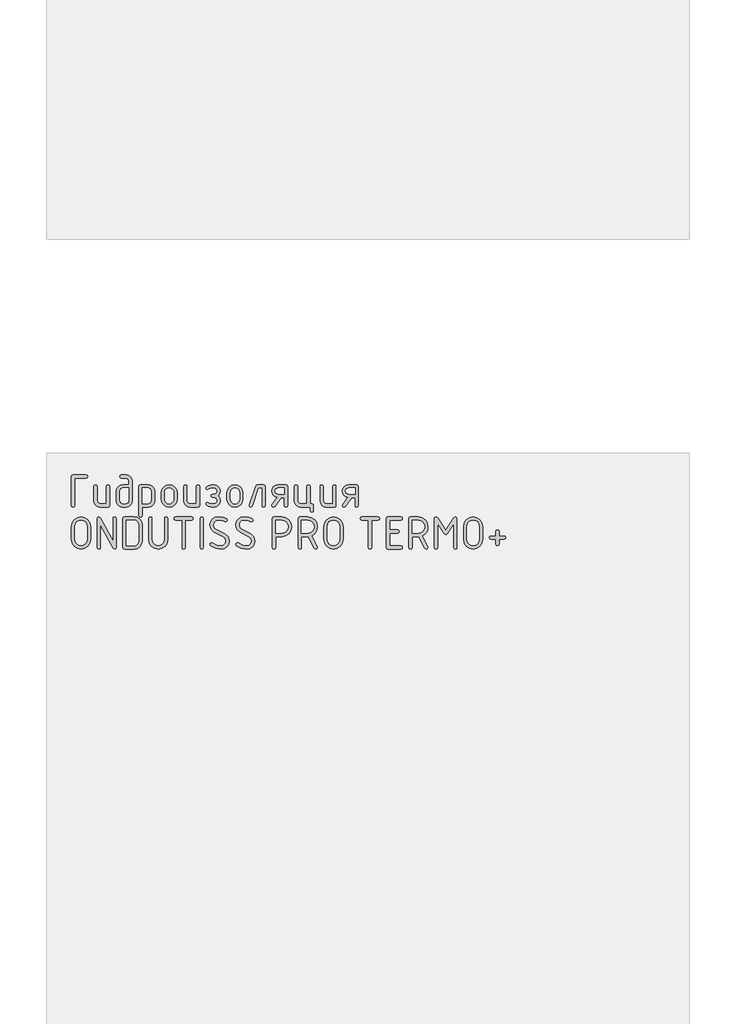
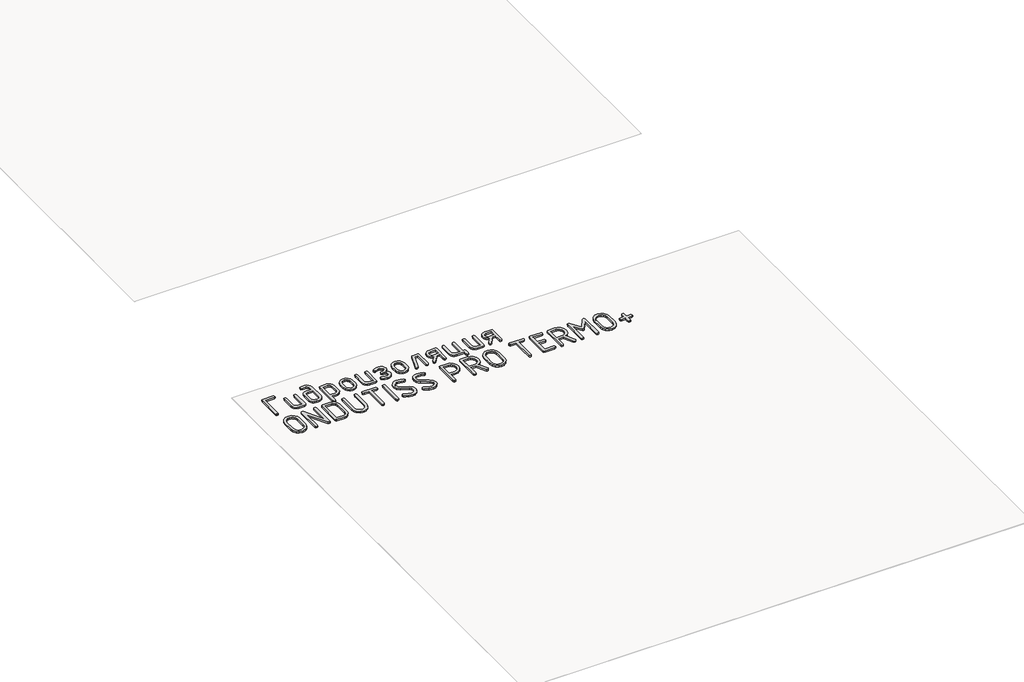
# One storey, part 16 of 42: 1 proxy.
"""IFC4 building model written with IfcOpenShell, lengths in millimetres."""

from ifc_helpers import new_model, si_unit, origin, origin_with_axes, place, context, project, spatial, polyline, outline, extrude, element, save

model = new_model("IFC4")

# Units and contexts
model_context = context("Model", 3, world=origin())
ifc_project = project(units=[si_unit("LENGTHUNIT", "METRE", prefix="MILLI")], contexts=[model_context])

# Site, building, storey
site = spatial("IfcSite", under=ifc_project)
building = spatial("IfcBuilding", under=site)
storey = spatial("IfcBuildingStorey", under=building, Name="Этаж 01", Elevation=0.0)

# Proxy
placement = place(None, origin())
element("IfcBuildingElementProxy", 1, Name="150 мм GOST Common", ObjectType="150 мм GOST Common", at=placement, inside=storey, context=model_context, shape_type="SweptSolid", body=[
    extrude(outline(polyline([(-4405.184039, -38691.2553022), (-4405.184039, -38819.2602353), (-4407.1017159, -38824.8934112), (-4412.8547466, -38826.7711365), (-4418.6077773, -38824.8834233), (-4420.5254542, -38819.2202837), (-4420.5254542, -38683.4647398), (-4418.6077773, -38677.8016002), (-4412.8547466, -38675.913887), (-4352.6876338, -38675.913887), (-4347.0544579, -38677.8315639), (-4345.1767326, -38683.5845946), (-4347.0544579, -38689.3376253), (-4352.6876338, -38691.2553022), (-4405.184039, -38691.2553022)])), origin_with_axes(), (0.0, 0.0, 1.0), 10.0),
    extrude(outline(polyline([(-4241.5422768, -38729.4090822), (-4241.5422768, -38819.3001869), (-4243.4000263, -38824.9033991), (-4248.9732748, -38826.7711365), (-4286.0483616, -38826.7711365), (-4297.5444351, -38824.6037621), (-4307.1028559, -38818.1016388), (-4313.5450517, -38808.443339), (-4315.6924503, -38796.8074349), (-4315.6924503, -38729.4090822), (-4313.7747734, -38723.80587), (-4308.0217427, -38721.9381326), (-4302.268712, -38723.80587), (-4300.3510351, -38729.4090822), (-4300.3510351, -38796.5277737), (-4296.0762137, -38807.0150692), (-4285.8486036, -38811.4297213), (-4256.883692, -38811.4297213), (-4256.883692, -38729.4090822), (-4254.9660151, -38723.80587), (-4249.2129844, -38721.9381326), (-4243.4599537, -38723.80587), (-4241.5422768, -38729.4090822)])), origin_with_axes(), (0.0, 0.0, 1.0), 10.0),
    extrude(outline(polyline([(-4136.709273, -38706.0773466), (-4136.709273, -38796.6076769), (-4138.8716535, -38808.2935205), (-4145.3587948, -38818.0217356), (-4154.9321975, -38824.5837863), (-4166.3533617, -38826.7711365), (-4181.2153577, -38826.7711365), (-4192.7114312, -38824.5887802), (-4202.269852, -38818.0417114), (-4208.7120478, -38808.3684298), (-4210.8594465, -38796.8074349), (-4210.8594465, -38751.9018342), (-4208.7170418, -38740.2659301), (-4202.2898278, -38730.6076303), (-4192.7963284, -38724.105507), (-4181.4550673, -38721.9381326), (-4152.0506882, -38721.9381326), (-4152.0506882, -38706.5967174), (-4156.2256306, -38695.6699543), (-4166.5531198, -38691.2553022), (-4188.2867913, -38691.2553022), (-4193.7102213, -38689.3376253), (-4195.5180313, -38683.5845946), (-4193.6802576, -38677.8315639), (-4188.1669365, -38675.913887), (-4166.1136521, -38675.913887), (-4154.7224516, -38678.1162191), (-4145.23894, -38684.7232153), (-4138.8416898, -38694.4664122), (-4136.709273, -38706.0773466)]), holes=[polyline([(-4152.0506882, -38796.6076769), (-4152.0506882, -38737.2795478), (-4181.0155997, -38737.2795478), (-4191.2831614, -38741.6142966), (-4195.5180313, -38752.1015922), (-4195.5180313, -38796.6076769), (-4191.2432098, -38807.0550209), (-4181.0155997, -38811.4297213), (-4166.5531198, -38811.4297213), (-4156.285558, -38807.0949725), (-4152.0506882, -38796.6076769)])]), origin_with_axes(), (0.0, 0.0, 1.0), 10.0),
    extrude(outline(polyline([(-4106.0264426, -38729.4889854), (-4104.1686931, -38723.8258458), (-4098.5954446, -38721.9381326), (-4061.5203579, -38721.9381326), (-4050.0242844, -38724.105507), (-4040.4658636, -38730.6076303), (-4034.0236678, -38740.2659301), (-4031.8762691, -38751.9018342), (-4031.8762691, -38796.8074349), (-4034.0086859, -38808.3684298), (-4040.4059362, -38818.0417114), (-4049.8894477, -38824.5887802), (-4061.2806483, -38826.7711365), (-4090.6850274, -38826.7711365), (-4090.6850274, -38865.1246745), (-4092.6027043, -38870.8777052), (-4098.355735, -38872.7953821), (-4104.1087657, -38870.9076689), (-4106.0264426, -38865.2445293), (-4106.0264426, -38729.4889854)]), holes=[polyline([(-4090.6850274, -38737.2795478), (-4090.6850274, -38811.4297213), (-4061.7201159, -38811.4297213), (-4051.4525542, -38807.0949725), (-4047.2176843, -38796.6076769), (-4047.2176843, -38752.1015922), (-4051.3926268, -38741.5543692), (-4061.7201159, -38737.2795478), (-4090.6850274, -38737.2795478)])]), origin_with_axes(), (0.0, 0.0, 1.0), 10.0),
    extrude(outline(polyline([(-4001.1934388, -38789.3364853), (-4001.1934388, -38759.3727838), (-3998.4817238, -38744.9802191), (-3990.3465788, -38732.8848716), (-3978.3660921, -38724.6748174), (-3964.118352, -38721.9381326), (-3949.7207934, -38724.6448537), (-3937.7702705, -38732.7650168), (-3929.7250166, -38744.8304006), (-3927.0432653, -38759.3727838), (-3927.0432653, -38789.3364853), (-3929.7549803, -38803.72905), (-3937.8901253, -38815.8243975), (-3949.8706119, -38824.0344517), (-3964.118352, -38826.7711365), (-3978.3660921, -38824.0344517), (-3990.3465788, -38815.8243975), (-3998.4817238, -38803.72905), (-4001.1934388, -38789.3364853)]), holes=[polyline([(-3942.3846805, -38788.8970177), (-3942.3846805, -38758.8933645), (-3943.9777506, -38750.2638185), (-3948.756961, -38742.9926269), (-3955.783449, -38738.0486162), (-3964.118352, -38736.4006126), (-3972.453255, -38738.0486162), (-3979.479743, -38742.9926269), (-3984.2589534, -38750.2638185), (-3985.8520236, -38758.8933645), (-3985.8520236, -38788.8970177), (-3984.2739353, -38797.606467), (-3979.5396704, -38804.8776585), (-3972.5281643, -38809.7917056), (-3964.118352, -38811.4297213), (-3955.783449, -38809.7817177), (-3948.756961, -38804.8377069), (-3943.9777506, -38797.5565275), (-3942.3846805, -38788.8970177)])]), origin_with_axes(), (0.0, 0.0, 1.0), 10.0),
    extrude(outline(polyline([(-3822.2102614, -38729.4090822), (-3822.2102614, -38819.3001869), (-3824.0680109, -38824.9033991), (-3829.6412594, -38826.7711365), (-3866.7163462, -38826.7711365), (-3878.2124197, -38824.6037621), (-3887.7708405, -38818.1016388), (-3894.2130363, -38808.443339), (-3896.3604349, -38796.8074349), (-3896.3604349, -38729.4090822), (-3894.442758, -38723.80587), (-3888.6897273, -38721.9381326), (-3882.9366966, -38723.80587), (-3881.0190197, -38729.4090822), (-3881.0190197, -38796.5277737), (-3876.7441983, -38807.0150692), (-3866.5165882, -38811.4297213), (-3837.5516766, -38811.4297213), (-3837.5516766, -38729.4090822), (-3835.6339997, -38723.80587), (-3829.880969, -38721.9381326), (-3824.1279383, -38723.80587), (-3822.2102614, -38729.4090822)])), origin_with_axes(), (0.0, 0.0, 1.0), 10.0),
    extrude(outline(polyline([(-3740.3893804, -38796.0483545), (-3744.3845406, -38784.7020995), (-3753.2537963, -38780.7468909), (-3762.922084, -38780.7468909), (-3768.235647, -38778.5495528), (-3770.3930336, -38773.1161349), (-3768.1757196, -38767.6627412), (-3760.7646975, -38765.4054757), (-3758.4874561, -38765.4054757), (-3756.09036, -38765.4054757), (-3744.4244922, -38761.3503881), (-3740.3893804, -38751.3425118), (-3744.7241292, -38741.3346354), (-3755.4111828, -38737.2795478), (-3762.922084, -38737.2795478), (-3778.3034508, -38741.0949258), (-3787.212658, -38744.9103038), (-3791.2078182, -38742.1736191), (-3792.9257371, -38736.9199834), (-3789.8494638, -38731.1769406), (-3780.6206437, -38726.013196), (-3762.922084, -38721.9381326), (-3755.4111828, -38721.9381326), (-3743.7253392, -38724.0555675), (-3733.9172209, -38730.4078723), (-3727.2652791, -38739.8264625), (-3725.0479652, -38751.1427537), (-3727.6947588, -38764.4366493), (-3735.6351397, -38773.0761833), (-3727.6947588, -38782.2650518), (-3725.0479652, -38796.0883061), (-3727.2652791, -38807.9888895), (-3733.9172209, -38817.881905), (-3743.7253392, -38824.5488286), (-3755.4111828, -38826.7711365), (-3762.922084, -38826.7711365), (-3780.7404985, -38822.8159279), (-3789.8794275, -38817.7420744), (-3792.9257371, -38811.7892857), (-3791.2078182, -38806.5156742), (-3787.0928032, -38803.7989653), (-3777.9638621, -38807.6143433), (-3762.922084, -38811.4297213), (-3755.4111828, -38811.4297213), (-3744.7640808, -38806.935166), (-3740.3893804, -38796.0483545)])), origin_with_axes(), (0.0, 0.0, 1.0), 10.0),
    extrude(outline(polyline([(-3694.3651348, -38789.3364853), (-3694.3651348, -38759.3727838), (-3691.6534198, -38744.9802191), (-3683.5182748, -38732.8848716), (-3671.5377882, -38724.6748174), (-3657.2900481, -38721.9381326), (-3642.8924895, -38724.6448537), (-3630.9419665, -38732.7650168), (-3622.8967126, -38744.8304006), (-3620.2149613, -38759.3727838), (-3620.2149613, -38789.3364853), (-3622.9266763, -38803.72905), (-3631.0618213, -38815.8243975), (-3643.042308, -38824.0344517), (-3657.2900481, -38826.7711365), (-3671.5377882, -38824.0344517), (-3683.5182748, -38815.8243975), (-3691.6534198, -38803.72905), (-3694.3651348, -38789.3364853)]), holes=[polyline([(-3635.5563765, -38788.8970177), (-3635.5563765, -38758.8933645), (-3637.1494467, -38750.2638185), (-3641.9286571, -38742.9926269), (-3648.9551451, -38738.0486162), (-3657.2900481, -38736.4006126), (-3665.6249511, -38738.0486162), (-3672.6514391, -38742.9926269), (-3677.4306495, -38750.2638185), (-3679.0237196, -38758.8933645), (-3679.0237196, -38788.8970177), (-3677.4456313, -38797.606467), (-3672.7113665, -38804.8776585), (-3665.6998603, -38809.7917056), (-3657.2900481, -38811.4297213), (-3648.9551451, -38809.7817177), (-3641.9286571, -38804.8377069), (-3637.1494467, -38797.5565275), (-3635.5563765, -38788.8970177)])]), origin_with_axes(), (0.0, 0.0, 1.0), 10.0),
    extrude(outline(polyline([(-3553.2161247, -38721.9381326), (-3523.0526651, -38721.9381326), (-3517.2996344, -38723.80587), (-3515.3819575, -38729.4090822), (-3515.3819575, -38819.3001869), (-3517.2996344, -38824.9033991), (-3523.0526651, -38826.7711365), (-3528.8056958, -38824.9033991), (-3530.7233727, -38819.3001869), (-3530.7233727, -38737.2795478), (-3547.86261, -38737.2795478), (-3576.1483443, -38821.697283), (-3583.2197778, -38826.7711365), (-3588.8529537, -38824.8734354), (-3590.730679, -38819.1803321), (-3590.3711146, -38816.9030908), (-3560.7270259, -38728.0507277), (-3557.8105589, -38723.4662814), (-3553.2161247, -38721.9381326)])), origin_with_axes(), (0.0, 0.0, 1.0), 10.0),
    extrude(outline(polyline([(-3459.1700534, -38781.6258261), (-3469.752234, -38778.5046072), (-3478.3268466, -38771.8576594), (-3484.004968, -38762.663797), (-3485.8976752, -38751.9018342), (-3483.7203129, -38740.2659301), (-3477.1882259, -38730.6076303), (-3467.5099503, -38724.105507), (-3455.894022, -38721.9381326), (-3418.2196612, -38721.9381326), (-3412.4666305, -38723.80587), (-3410.5489536, -38729.4090822), (-3410.5489536, -38819.3001869), (-3412.4666305, -38824.9033991), (-3418.2196612, -38826.7711365), (-3423.9726919, -38824.8934112), (-3425.8903688, -38819.2602353), (-3425.8903688, -38781.7856325), (-3441.1119292, -38781.7856325), (-3472.3540821, -38823.6948631), (-3478.386774, -38826.7711365), (-3484.0199499, -38824.9033991), (-3485.8976752, -38819.3001869), (-3484.4194659, -38814.7457043), (-3459.1700534, -38781.6258261)]), holes=[polyline([(-3470.8758728, -38752.3013502), (-3466.441245, -38762.8485732), (-3455.894022, -38767.283201), (-3425.8903688, -38767.283201), (-3425.8903688, -38737.2795478), (-3455.894022, -38737.2795478), (-3466.5011724, -38741.6542483), (-3470.8758728, -38752.3013502)])]), origin_with_axes(), (0.0, 0.0, 1.0), 10.0),
    extrude(outline(polyline([(-3298.0452422, -38811.4297213), (-3292.2922115, -38813.3473982), (-3290.3745346, -38819.1004289), (-3290.3745346, -38842.1125517), (-3292.2922115, -38847.8655824), (-3298.0452422, -38849.7832593), (-3303.7982729, -38847.8655824), (-3305.7159498, -38842.1125517), (-3305.7159498, -38826.7711365), (-3350.2220345, -38826.7711365), (-3361.718108, -38824.5887802), (-3371.2765288, -38818.0417114), (-3377.7187246, -38808.3684298), (-3379.8661233, -38796.8074349), (-3379.8661233, -38729.4090822), (-3377.9484464, -38723.80587), (-3372.1954157, -38721.9381326), (-3366.442385, -38723.80587), (-3364.5247081, -38729.4090822), (-3364.5247081, -38796.5277737), (-3360.2498866, -38807.0150692), (-3350.0222765, -38811.4297213), (-3321.057365, -38811.4297213), (-3321.057365, -38729.4090822), (-3319.1396881, -38723.80587), (-3313.3866574, -38721.9381326), (-3307.6336267, -38723.80587), (-3305.7159498, -38729.4090822), (-3305.7159498, -38811.4297213), (-3298.0452422, -38811.4297213)])), origin_with_axes(), (0.0, 0.0, 1.0), 10.0),
    extrude(outline(polyline([(-3185.5415308, -38729.4090822), (-3185.5415308, -38819.3001869), (-3187.3992802, -38824.9033991), (-3192.9725287, -38826.7711365), (-3230.0476155, -38826.7711365), (-3241.543689, -38824.6037621), (-3251.1021098, -38818.1016388), (-3257.5443056, -38808.443339), (-3259.6917042, -38796.8074349), (-3259.6917042, -38729.4090822), (-3257.7740273, -38723.80587), (-3252.0209966, -38721.9381326), (-3246.2679659, -38723.80587), (-3244.350289, -38729.4090822), (-3244.350289, -38796.5277737), (-3240.0754676, -38807.0150692), (-3229.8478575, -38811.4297213), (-3200.882946, -38811.4297213), (-3200.882946, -38729.4090822), (-3198.9652691, -38723.80587), (-3193.2122384, -38721.9381326), (-3187.4592077, -38723.80587), (-3185.5415308, -38729.4090822)])), origin_with_axes(), (0.0, 0.0, 1.0), 10.0),
    extrude(outline(polyline([(-3129.3296266, -38781.6258261), (-3139.9118072, -38778.5046072), (-3148.4864198, -38771.8576594), (-3154.1645413, -38762.663797), (-3156.0572484, -38751.9018342), (-3153.8798861, -38740.2659301), (-3147.3477992, -38730.6076303), (-3137.6695236, -38724.105507), (-3126.0535953, -38721.9381326), (-3088.3792345, -38721.9381326), (-3082.6262038, -38723.80587), (-3080.7085269, -38729.4090822), (-3080.7085269, -38819.3001869), (-3082.6262038, -38824.9033991), (-3088.3792345, -38826.7711365), (-3094.1322652, -38824.8934112), (-3096.0499421, -38819.2602353), (-3096.0499421, -38781.7856325), (-3111.2715025, -38781.7856325), (-3142.5136553, -38823.6948631), (-3148.5463472, -38826.7711365), (-3154.1795231, -38824.9033991), (-3156.0572484, -38819.3001869), (-3154.5790391, -38814.7457043), (-3129.3296266, -38781.6258261)]), holes=[polyline([(-3141.035446, -38752.3013502), (-3136.6008182, -38762.8485732), (-3126.0535953, -38767.283201), (-3096.0499421, -38767.283201), (-3096.0499421, -38737.2795478), (-3126.0535953, -38737.2795478), (-3136.6607456, -38741.6542483), (-3141.035446, -38752.3013502)])]), origin_with_axes(), (0.0, 0.0, 1.0), 10.0),
    extrude(outline(polyline([(-4331.0338655, -38977.5302169), (-4334.3098969, -38994.8991759), (-4344.137991, -39009.5314502), (-4358.6004709, -39019.4793991), (-4375.7796598, -39022.7953821), (-4392.9588487, -39019.4793991), (-4407.4213287, -39009.5314502), (-4417.2494228, -38994.8991759), (-4420.5254542, -38977.5302169), (-4420.5254542, -38917.2032978), (-4417.2494228, -38899.8343388), (-4407.4213287, -38885.2020645), (-4392.9588487, -38875.2541156), (-4375.7796598, -38871.9381326), (-4358.5255617, -38875.2391337), (-4344.0780636, -38885.1421371), (-4334.294915, -38899.7594295), (-4331.0338655, -38917.2032978), (-4331.0338655, -38977.5302169)]), holes=[polyline([(-4346.3752807, -38977.4103621), (-4346.3752807, -38917.3231526), (-4348.5076975, -38905.6772606), (-4354.9049477, -38895.9889971), (-4364.3884593, -38889.4569101), (-4375.7796598, -38887.2795478), (-4387.1708604, -38889.4569101), (-4396.6543719, -38895.9889971), (-4403.0516222, -38905.6772606), (-4405.184039, -38917.3231526), (-4405.184039, -38977.4103621), (-4403.0516222, -38989.0562541), (-4396.6543719, -38998.7445176), (-4387.1708604, -39005.2766046), (-4375.7796598, -39007.4539669), (-4364.3884593, -39005.2766046), (-4354.9049477, -38998.7445176), (-4348.5076975, -38989.0562541), (-4346.3752807, -38977.4103621)])]), origin_with_axes(), (0.0, 0.0, 1.0), 10.0),
    extrude(outline(polyline([(-4226.2008617, -38986.1198114), (-4226.2008617, -38879.4889854), (-4224.2831848, -38873.8258458), (-4218.5301541, -38871.9381326), (-4212.7771234, -38873.8258458), (-4210.8594465, -38879.4889854), (-4210.8594465, -39015.2445293), (-4212.8969782, -39020.9076689), (-4219.0095733, -39022.7953821), (-4226.2008617, -39019.0399315), (-4285.0096199, -38908.4938485), (-4285.0096199, -39015.2445293), (-4286.9272968, -39020.9076689), (-4292.6803275, -39022.7953821), (-4298.4333582, -39020.9076689), (-4300.3510351, -39015.2445293), (-4300.3510351, -38879.4889854), (-4298.353455, -38873.8258458), (-4292.3607147, -38871.9381326), (-4285.0096199, -38876.4127121), (-4226.2008617, -38986.1198114)])), origin_with_axes(), (0.0, 0.0, 1.0), 10.0),
    extrude(outline(polyline([(-4180.1766161, -38879.4889854), (-4178.3088787, -38873.8258458), (-4172.7056665, -38871.9381326), (-4127.9598721, -38871.9381326), (-4113.4874043, -38874.6648295), (-4101.47196, -38882.84492), (-4093.3817605, -38895.0001949), (-4090.6850274, -38909.652445), (-4090.6850274, -38985.0810697), (-4093.4117242, -38999.5835013), (-4101.5918148, -39011.7687399), (-4113.6372228, -39020.0387215), (-4127.9598721, -39022.7953821), (-4172.7056665, -39022.7953821), (-4178.3088787, -39020.9076689), (-4180.1766161, -39015.2445293), (-4180.1766161, -38879.4889854)]), holes=[polyline([(-4164.8352009, -38887.2795478), (-4164.8352009, -39007.4539669), (-4128.079727, -39007.4539669), (-4119.6049934, -39005.8059633), (-4112.4786263, -39000.8619525), (-4107.6394885, -38993.580773), (-4106.0264426, -38984.9212633), (-4106.0264426, -38909.8122514), (-4107.6394885, -38901.1527416), (-4112.4786263, -38893.8715622), (-4119.6049934, -38888.9275514), (-4128.079727, -38887.2795478), (-4164.8352009, -38887.2795478)])]), origin_with_axes(), (0.0, 0.0, 1.0), 10.0),
    extrude(outline(polyline([(-3970.5106084, -38879.4889854), (-3970.5106084, -38977.5302169), (-3973.7866397, -38994.8991759), (-3983.6147338, -39009.5314502), (-3998.0772138, -39019.4793991), (-4015.2564027, -39022.7953821), (-4032.4355916, -39019.4793991), (-4046.8980715, -39009.5314502), (-4056.7261656, -38994.8991759), (-4060.002197, -38977.5302169), (-4060.002197, -38879.4889854), (-4058.0845201, -38873.8258458), (-4052.3314894, -38871.9381326), (-4046.5784587, -38873.8158579), (-4044.6607818, -38879.4490338), (-4044.6607818, -38977.3304589), (-4042.5283651, -38989.0113086), (-4036.1311148, -38998.7245418), (-4026.6476032, -39005.2716106), (-4015.2564027, -39007.4539669), (-4003.8652021, -39005.2716106), (-3994.3816906, -38998.7245418), (-3987.9844403, -38989.0113086), (-3985.8520236, -38977.3304589), (-3985.8520236, -38879.4490338), (-3983.9343467, -38873.8158579), (-3978.181316, -38871.9381326), (-3972.4282853, -38873.8258458), (-3970.5106084, -38879.4889854)])), origin_with_axes(), (0.0, 0.0, 1.0), 10.0),
    extrude(outline(polyline([(-3941.5456969, -38879.6088402), (-3939.6679716, -38873.8558095), (-3934.0347957, -38871.9381326), (-3858.6860741, -38871.9381326), (-3853.082862, -38873.8558095), (-3851.2151246, -38879.6088402), (-3853.082862, -38885.3618709), (-3858.6860741, -38887.2795478), (-3888.6897273, -38887.2795478), (-3888.6897273, -39015.2844809), (-3890.6074042, -39020.9176568), (-3896.3604349, -39022.7953821), (-3902.1134656, -39020.9176568), (-3904.0311425, -39015.2844809), (-3904.0311425, -38887.2795478), (-3934.0347957, -38887.2795478), (-3939.6679716, -38885.3618709), (-3941.5456969, -38879.6088402)])), origin_with_axes(), (0.0, 0.0, 1.0), 10.0),
    extrude(outline(polyline([(-3811.9826513, -39022.7953821), (-3817.735682, -39020.9076689), (-3819.6533589, -39015.2445293), (-3819.6533589, -38879.4889854), (-3817.735682, -38873.8258458), (-3811.9826513, -38871.9381326), (-3806.2296206, -38873.8258458), (-3804.3119437, -38879.4889854), (-3804.3119437, -39015.2445293), (-3806.2296206, -39020.9076689), (-3811.9826513, -39022.7953821)])), origin_with_axes(), (0.0, 0.0, 1.0), 10.0),
    extrude(outline(polyline([(-3684.1375247, -38985.1609729), (-3686.8792034, -38999.5535376), (-3695.1042394, -39011.7287883), (-3707.1646293, -39020.0287336), (-3721.4123694, -39022.7953821), (-3747.4308503, -39018.6104518), (-3770.353082, -39006.0556608), (-3773.6291133, -38999.9430657), (-3771.4317752, -38994.6494784), (-3766.1981153, -38992.4321645), (-3761.9632455, -38993.790519), (-3741.5080253, -39004.2578387), (-3721.7319822, -39007.4539669), (-3713.1823394, -39005.8009693), (-3705.991051, -39000.8419767), (-3701.1069677, -38993.5458154), (-3699.4789399, -38984.8813117), (-3702.5652011, -38972.9158069), (-3711.8239849, -38964.665801), (-3753.5334575, -38943.0120327), (-3768.6051994, -38929.3985243), (-3773.6291133, -38909.5725418), (-3770.9024165, -38895.1799771), (-3762.722326, -38883.0047264), (-3750.7268574, -38874.7047811), (-3736.5540266, -38871.9381326), (-3713.3721095, -38874.0256038), (-3696.4026665, -38880.2880175), (-3691.9680387, -38887.2795478), (-3694.1853526, -38892.5731351), (-3699.4789399, -38894.790449), (-3702.5951648, -38893.991417), (-3719.4747167, -38888.9575151), (-3736.2344138, -38887.2795478), (-3744.7091474, -38888.9325454), (-3751.8355144, -38893.891538), (-3756.6746522, -38901.1876993), (-3758.2876981, -38909.852203), (-3755.2513764, -38921.7877441), (-3746.1424111, -38929.9478588), (-3704.4728901, -38951.6016272), (-3689.221366, -38965.3050267), (-3684.1375247, -38985.1609729)])), origin_with_axes(), (0.0, 0.0, 1.0), 10.0),
    extrude(outline(polyline([(-3563.9631056, -38985.1609729), (-3566.7047843, -38999.5535376), (-3574.9298204, -39011.7287883), (-3586.9902103, -39020.0287336), (-3601.2379504, -39022.7953821), (-3627.2564312, -39018.6104518), (-3650.1786629, -39006.0556608), (-3653.4546943, -38999.9430657), (-3651.2573562, -38994.6494784), (-3646.0236963, -38992.4321645), (-3641.7888265, -38993.790519), (-3621.3336062, -39004.2578387), (-3601.5575632, -39007.4539669), (-3593.0079203, -39005.8009693), (-3585.816632, -39000.8419767), (-3580.9325486, -38993.5458154), (-3579.3045208, -38984.8813117), (-3582.3907821, -38972.9158069), (-3591.6495659, -38964.665801), (-3633.3590384, -38943.0120327), (-3648.4307803, -38929.3985243), (-3653.4546943, -38909.5725418), (-3650.7279974, -38895.1799771), (-3642.5479069, -38883.0047264), (-3630.5524384, -38874.7047811), (-3616.3796075, -38871.9381326), (-3593.1976904, -38874.0256038), (-3576.2282475, -38880.2880175), (-3571.7936196, -38887.2795478), (-3574.0109335, -38892.5731351), (-3579.3045208, -38894.790449), (-3582.4207458, -38893.991417), (-3599.3002977, -38888.9575151), (-3616.0599947, -38887.2795478), (-3624.5347283, -38888.9325454), (-3631.6610953, -38893.891538), (-3636.5002331, -38901.1876993), (-3638.1132791, -38909.852203), (-3635.0769573, -38921.7877441), (-3625.967992, -38929.9478588), (-3584.2984711, -38951.6016272), (-3569.046947, -38965.3050267), (-3563.9631056, -38985.1609729)])), origin_with_axes(), (0.0, 0.0, 1.0), 10.0),
    extrude(outline(polyline([(-3474.671275, -38871.9381326), (-3437.3964302, -38871.9381326), (-3420.1423321, -38875.2940672), (-3405.694834, -38885.3618709), (-3395.9116854, -38900.2238669), (-3392.6506359, -38917.9623782), (-3395.7418911, -38936.4999216), (-3405.0156568, -38951.2021111), (-3419.2334332, -38960.7904956), (-3437.1567206, -38963.9866238), (-3466.8008094, -38963.9866238), (-3466.8008094, -39015.4442873), (-3468.7184863, -39020.9576084), (-3474.471517, -39022.7953821), (-3480.2245477, -39020.9076689), (-3482.1422246, -39015.2445293), (-3482.1422246, -38879.4889854), (-3480.2744872, -38873.8258458), (-3474.671275, -38871.9381326)]), holes=[polyline([(-3466.8008094, -38887.2795478), (-3466.8008094, -38948.6452086), (-3437.3964302, -38948.6452086), (-3426.0052297, -38946.4229007), (-3416.5217182, -38939.7559772), (-3410.1244679, -38929.8629617), (-3407.9920511, -38917.9623782), (-3410.1244679, -38906.0617947), (-3416.5217182, -38896.1687793), (-3426.0052297, -38889.5018557), (-3437.3964302, -38887.2795478), (-3466.8008094, -38887.2795478)])]), origin_with_axes(), (0.0, 0.0, 1.0), 10.0),
    extrude(outline(polyline([(-3298.6445162, -38959.2723348), (-3272.4762169, -39011.8086915), (-3272.4762169, -39015.2445293), (-3274.9132646, -39020.5181407), (-3280.5064889, -39022.7953821), (-3287.8176321, -39018.6803671), (-3314.9048183, -38963.866769), (-3317.541624, -38963.9866238), (-3346.6263903, -38963.9866238), (-3346.6263903, -39015.4442873), (-3348.5440672, -39020.9576084), (-3354.2970979, -39022.7953821), (-3360.0501286, -39020.9076689), (-3361.9678055, -39015.2445293), (-3361.9678055, -38879.4889854), (-3360.1000681, -38873.8258458), (-3354.4968559, -38871.9381326), (-3317.2220112, -38871.9381326), (-3299.9679131, -38875.2391337), (-3285.520415, -38885.1421371), (-3275.7372664, -38899.7594295), (-3272.4762169, -38917.2032978), (-3274.1117356, -38931.533438), (-3279.0182917, -38943.3216576), (-3287.1958853, -38952.5679565), (-3298.6445162, -38959.2723348)]), holes=[polyline([(-3346.6263903, -38887.2795478), (-3346.6263903, -38948.6452086), (-3317.2220112, -38948.6452086), (-3305.8308107, -38946.4229007), (-3296.3472991, -38939.7559772), (-3289.9500488, -38929.8629617), (-3287.8176321, -38917.9623782), (-3289.9500488, -38906.0617947), (-3296.3472991, -38896.1687793), (-3305.8308107, -38889.5018557), (-3317.2220112, -38887.2795478), (-3346.6263903, -38887.2795478)])]), origin_with_axes(), (0.0, 0.0, 1.0), 10.0),
    extrude(outline(polyline([(-3152.3017978, -38977.5302169), (-3155.5778292, -38994.8991759), (-3165.4059233, -39009.5314502), (-3179.8684033, -39019.4793991), (-3197.0475922, -39022.7953821), (-3214.226781, -39019.4793991), (-3228.689261, -39009.5314502), (-3238.5173551, -38994.8991759), (-3241.7933865, -38977.5302169), (-3241.7933865, -38917.2032978), (-3238.5173551, -38899.8343388), (-3228.689261, -38885.2020645), (-3214.226781, -38875.2541156), (-3197.0475922, -38871.9381326), (-3179.793494, -38875.2391337), (-3165.3459959, -38885.1421371), (-3155.5628473, -38899.7594295), (-3152.3017978, -38917.2032978), (-3152.3017978, -38977.5302169)]), holes=[polyline([(-3167.643213, -38977.4103621), (-3167.643213, -38917.3231526), (-3169.7756298, -38905.6772606), (-3176.1728801, -38895.9889971), (-3185.6563916, -38889.4569101), (-3197.0475922, -38887.2795478), (-3208.4387927, -38889.4569101), (-3217.9223042, -38895.9889971), (-3224.3195545, -38905.6772606), (-3226.4519713, -38917.3231526), (-3226.4519713, -38977.4103621), (-3224.3195545, -38989.0562541), (-3217.9223042, -38998.7445176), (-3208.4387927, -39005.2766046), (-3197.0475922, -39007.4539669), (-3185.6563916, -39005.2766046), (-3176.1728801, -38998.7445176), (-3169.7756298, -38989.0562541), (-3167.643213, -38977.4103621)])]), origin_with_axes(), (0.0, 0.0, 1.0), 10.0),
    extrude(outline(polyline([(-3072.1988357, -38879.6088402), (-3070.3211104, -38873.8558095), (-3064.6879345, -38871.9381326), (-2989.339213, -38871.9381326), (-2983.7360008, -38873.8558095), (-2981.8682634, -38879.6088402), (-2983.7360008, -38885.3618709), (-2989.339213, -38887.2795478), (-3019.3428661, -38887.2795478), (-3019.3428661, -39015.2844809), (-3021.260543, -39020.9176568), (-3027.0135737, -39022.7953821), (-3032.7666044, -39020.9176568), (-3034.6842813, -39015.2844809), (-3034.6842813, -38887.2795478), (-3064.6879345, -38887.2795478), (-3070.3211104, -38885.3618709), (-3072.1988357, -38879.6088402)])), origin_with_axes(), (0.0, 0.0, 1.0), 10.0),
    extrude(outline(polyline([(-2950.3064977, -39015.2445293), (-2950.3064977, -38879.4889854), (-2948.3888208, -38873.8258458), (-2942.6357901, -38871.9381326), (-2882.4686774, -38871.9381326), (-2876.8355015, -38873.8558095), (-2874.9577762, -38879.6088402), (-2876.8355015, -38885.3618709), (-2882.4686774, -38887.2795478), (-2934.9650825, -38887.2795478), (-2934.9650825, -38933.3037934), (-2897.4505282, -38933.3037934), (-2891.847316, -38935.2214703), (-2889.9795786, -38940.974501), (-2891.847316, -38946.7275317), (-2897.4505282, -38948.6452086), (-2934.9650825, -38948.6452086), (-2934.9650825, -39007.4539669), (-2882.4686774, -39007.4539669), (-2876.8355015, -39009.3716438), (-2874.9577762, -39015.1246745), (-2876.8355015, -39020.8777052), (-2882.4686774, -39022.7953821), (-2942.6357901, -39022.7953821), (-2948.3888208, -39020.9076689), (-2950.3064977, -39015.2445293)])), origin_with_axes(), (0.0, 0.0, 1.0), 10.0),
    extrude(outline(polyline([(-2782.1502046, -38959.2723348), (-2755.9819052, -39011.8086915), (-2755.9819052, -39015.2445293), (-2758.4189529, -39020.5181407), (-2764.0121772, -39022.7953821), (-2771.3233204, -39018.6803671), (-2798.4105066, -38963.866769), (-2801.0473124, -38963.9866238), (-2830.1320787, -38963.9866238), (-2830.1320787, -39015.4442873), (-2832.0497556, -39020.9576084), (-2837.8027863, -39022.7953821), (-2843.555817, -39020.9076689), (-2845.4734939, -39015.2445293), (-2845.4734939, -38879.4889854), (-2843.6057565, -38873.8258458), (-2838.0025443, -38871.9381326), (-2800.7276995, -38871.9381326), (-2783.4736014, -38875.2391337), (-2769.0261033, -38885.1421371), (-2759.2429547, -38899.7594295), (-2755.9819052, -38917.2032978), (-2757.6174239, -38931.533438), (-2762.5239801, -38943.3216576), (-2770.7015736, -38952.5679565), (-2782.1502046, -38959.2723348)]), holes=[polyline([(-2830.1320787, -38887.2795478), (-2830.1320787, -38948.6452086), (-2800.7276995, -38948.6452086), (-2789.336499, -38946.4229007), (-2779.8529875, -38939.7559772), (-2773.4557372, -38929.8629617), (-2771.3233204, -38917.9623782), (-2773.4557372, -38906.0617947), (-2779.8529875, -38896.1687793), (-2789.336499, -38889.5018557), (-2800.7276995, -38887.2795478), (-2830.1320787, -38887.2795478)])]), origin_with_axes(), (0.0, 0.0, 1.0), 10.0),
    extrude(outline(polyline([(-2628.7760042, -38871.9381326), (-2622.5435543, -38873.8258458), (-2620.466071, -38879.4889854), (-2620.466071, -39015.2445293), (-2622.3837479, -39020.9076689), (-2628.1367786, -39022.7953821), (-2633.8898093, -39020.9076689), (-2635.8074862, -39015.2445293), (-2635.8074862, -38904.2989303), (-2666.0108973, -38950.1234179), (-2672.8825729, -38954.6379489), (-2679.8341517, -38950.1234179), (-2709.9576596, -38904.2989303), (-2709.9576596, -39015.2445293), (-2711.8753365, -39020.9076689), (-2717.6283672, -39022.7953821), (-2723.3813979, -39020.9076689), (-2725.2990748, -39015.2445293), (-2725.2990748, -38879.4889854), (-2723.2615431, -38873.8258458), (-2717.148948, -38871.9381326), (-2709.9576596, -38875.6935832), (-2673.0024277, -38933.6633578), (-2635.8074862, -38875.2541156), (-2628.7760042, -38871.9381326)])), origin_with_axes(), (0.0, 0.0, 1.0), 10.0),
    extrude(outline(polyline([(-2500.2916519, -38977.5302169), (-2503.5676833, -38994.8991759), (-2513.3957774, -39009.5314502), (-2527.8582574, -39019.4793991), (-2545.0374463, -39022.7953821), (-2562.2166351, -39019.4793991), (-2576.6791151, -39009.5314502), (-2586.5072092, -38994.8991759), (-2589.7832406, -38977.5302169), (-2589.7832406, -38917.2032978), (-2586.5072092, -38899.8343388), (-2576.6791151, -38885.2020645), (-2562.2166351, -38875.2541156), (-2545.0374463, -38871.9381326), (-2527.7833481, -38875.2391337), (-2513.33585, -38885.1421371), (-2503.5527014, -38899.7594295), (-2500.2916519, -38917.2032978), (-2500.2916519, -38977.5302169)]), holes=[polyline([(-2515.6330671, -38977.4103621), (-2515.6330671, -38917.3231526), (-2517.7654839, -38905.6772606), (-2524.1627342, -38895.9889971), (-2533.6462457, -38889.4569101), (-2545.0374463, -38887.2795478), (-2556.4286468, -38889.4569101), (-2565.9121583, -38895.9889971), (-2572.3094086, -38905.6772606), (-2574.4418254, -38917.3231526), (-2574.4418254, -38977.4103621), (-2572.3094086, -38989.0562541), (-2565.9121583, -38998.7445176), (-2556.4286468, -39005.2766046), (-2545.0374463, -39007.4539669), (-2533.6462457, -39005.2766046), (-2524.1627342, -38998.7445176), (-2517.7654839, -38989.0562541), (-2515.6330671, -38977.4103621)])]), origin_with_axes(), (0.0, 0.0, 1.0), 10.0),
    extrude(outline(polyline([(-2438.9259911, -38976.7711365), (-2461.4187431, -38976.7711365), (-2467.051919, -38974.8534596), (-2468.9296443, -38969.1004289), (-2467.051919, -38963.3473982), (-2461.4187431, -38961.4297213), (-2438.9259911, -38961.4297213), (-2438.9259911, -38940.3352754), (-2437.0083142, -38935.0616639), (-2431.2552835, -38933.3037934), (-2425.5022528, -38935.0616639), (-2423.5845759, -38940.3352754), (-2423.5845759, -38961.4297213), (-2401.091824, -38961.4297213), (-2395.4586481, -38963.3473982), (-2393.5809228, -38969.1004289), (-2395.4586481, -38974.8534596), (-2401.091824, -38976.7711365), (-2423.5845759, -38976.7711365), (-2423.5845759, -38999.7832593), (-2425.5022528, -39005.53629), (-2431.2552835, -39007.4539669), (-2437.0083142, -39005.53629), (-2438.9259911, -38999.7832593), (-2438.9259911, -38976.7711365)])), origin_with_axes(), (0.0, 0.0, 1.0), 10.0),
])

save(model, "model.ifc")
